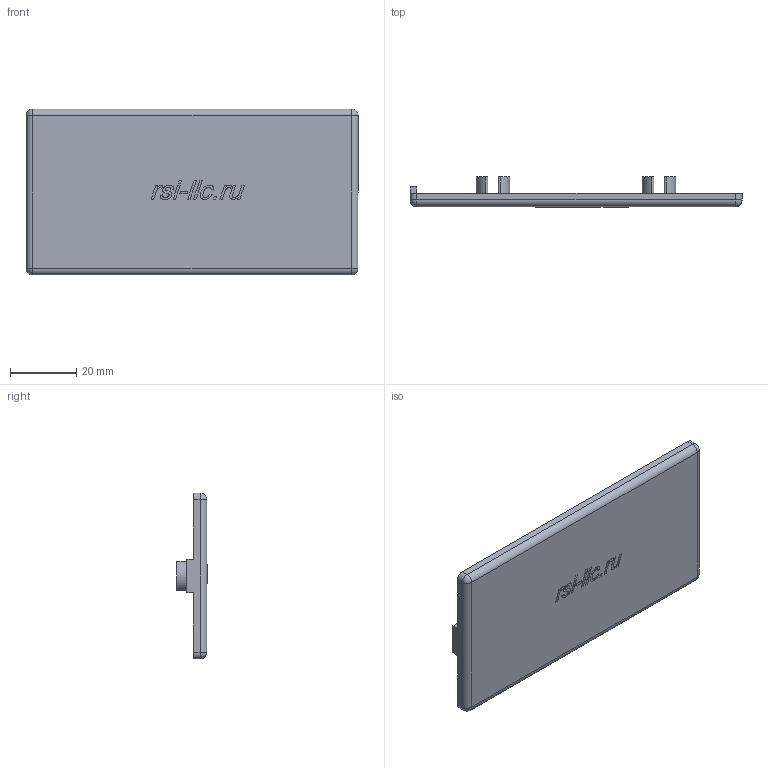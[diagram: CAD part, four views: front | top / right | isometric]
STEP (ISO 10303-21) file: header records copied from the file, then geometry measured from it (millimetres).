
FILE_DESCRIPTION (( 'STEP AP214' ), '1' );
FILE_NAME ('4011.STEP', '2020-10-22T09:58:25', ( '' ), ( '' ), 'SwSTEP 2.0', 'SolidWorks 2018', '' );
FILE_SCHEMA (( 'AUTOMOTIVE_DESIGN' ));
Length unit declared in the file: millimetre
Products named in the file (1): 4011
Bounding box: 100 x 9.1 x 50 mm (x, y, z)
Volume: 11271.2 mm3; surface area: 12106.7 mm2
Topology: 1 solids, 1 shells, 176 faces, 445 edges, 282 vertices
Faces by surface type: plane 80, cylinder 36, bspline 32, torus 24, sphere 4
Entity records: 8045 total; most frequent: CARTESIAN_POINT 2884, ORIENTED_EDGE 882, DIRECTION 787, EDGE_CURVE 441, VERTEX_POINT 282, AXIS2_PLACEMENT_3D 265, VECTOR 257, LINE 257
